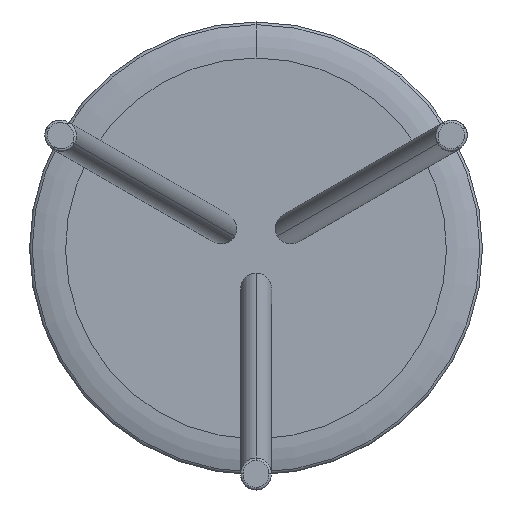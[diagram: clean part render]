
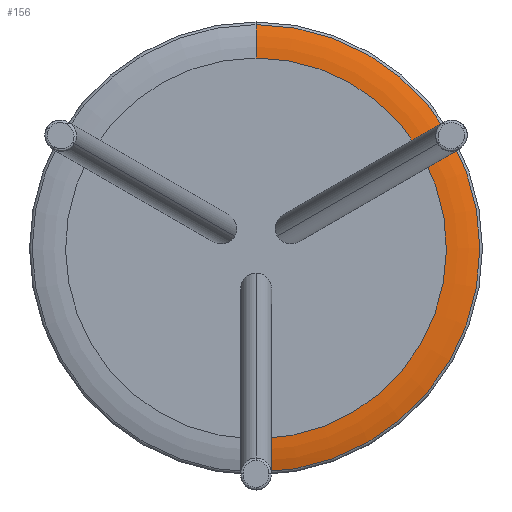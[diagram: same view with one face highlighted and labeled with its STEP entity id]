
A CAD part, front view. The second image highlights one B-rep face of the part: STEP entity #156.
In plain terms, the highlighted toroidal (fillet/blend) face has major radius 147.161 mm and minor radius 80 mm.
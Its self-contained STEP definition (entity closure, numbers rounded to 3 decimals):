
#87 = VERTEX_POINT ( 'NONE', #962 ) ;
#129 = DIRECTION ( 'NONE',  ( 0., 0., 1. ) ) ;
#150 = CARTESIAN_POINT ( 'NONE',  ( 0., 580., -147.161 ) ) ;
#156 = ADVANCED_FACE ( 'NONE', ( #924 ), #1211, .T. ) ;
#162 = CIRCLE ( 'NONE', #1394, 147.161 ) ;
#164 = CARTESIAN_POINT ( 'NONE',  ( 0., 500., 0. ) ) ;
#228 = DIRECTION ( 'NONE',  ( 0., -1., 0. ) ) ;
#268 = CIRCLE ( 'NONE', #2988, 147.161 ) ;
#283 = CARTESIAN_POINT ( 'NONE',  ( 0., 504.277, 172.968 ) ) ;
#366 = EDGE_CURVE ( 'NONE', #1023, #3025, #162, .T. ) ;
#601 = ORIENTED_EDGE ( 'NONE', *, *, #1172, .F. ) ;
#654 = DIRECTION ( 'NONE',  ( -1., 0., 0. ) ) ;
#776 = CARTESIAN_POINT ( 'NONE',  ( 126.05, 500., 75.946 ) ) ;
#795 = CARTESIAN_POINT ( 'NONE',  ( 0., 500., 0. ) ) ;
#837 = CIRCLE ( 'NONE', #1724, 147.161 ) ;
#924 = FACE_OUTER_BOUND ( 'NONE', #1065, .T. ) ;
#962 = CARTESIAN_POINT ( 'NONE',  ( 2.746, 500., -147.136 ) ) ;
#968 = DIRECTION ( 'NONE',  ( 0., 1., 0. ) ) ;
#1023 = VERTEX_POINT ( 'NONE', #776 ) ;
#1037 = DIRECTION ( 'NONE',  ( 0., 0., 1. ) ) ;
#1044 = ORIENTED_EDGE ( 'NONE', *, *, #2589, .T. ) ;
#1065 = EDGE_LOOP ( 'NONE', ( #2803, #1613, #1044, #601, #1997, #1716, #1885 ) ) ;
#1172 = EDGE_CURVE ( 'NONE', #2136, #2296, #3052, .T. ) ;
#1211 = TOROIDAL_SURFACE ( 'NONE', #2039, 147.161, 80. ) ;
#1394 = AXIS2_PLACEMENT_3D ( 'NONE', #3117, #2801, #3426 ) ;
#1403 = DIRECTION ( 'NONE',  ( 0., 1., 0. ) ) ;
#1488 = CARTESIAN_POINT ( 'NONE',  ( 0., 580., 147.161 ) ) ;
#1491 = AXIS2_PLACEMENT_3D ( 'NONE', #150, #2748, #2783 ) ;
#1498 = CARTESIAN_POINT ( 'NONE',  ( 0., 500., -147.161 ) ) ;
#1572 = EDGE_CURVE ( 'NONE', #3025, #87, #268, .T. ) ;
#1577 = CARTESIAN_POINT ( 'NONE',  ( 0., 504.277, 0. ) ) ;
#1613 = ORIENTED_EDGE ( 'NONE', *, *, #3264, .T. ) ;
#1716 = ORIENTED_EDGE ( 'NONE', *, *, #366, .T. ) ;
#1724 = AXIS2_PLACEMENT_3D ( 'NONE', #2935, #2655, #129 ) ;
#1785 = AXIS2_PLACEMENT_3D ( 'NONE', #164, #968, #3523 ) ;
#1885 = ORIENTED_EDGE ( 'NONE', *, *, #1572, .T. ) ;
#1891 = DIRECTION ( 'NONE',  ( 0., 1., 0. ) ) ;
#1929 = AXIS2_PLACEMENT_3D ( 'NONE', #1488, #654, #2827 ) ;
#1997 = ORIENTED_EDGE ( 'NONE', *, *, #3422, .T. ) ;
#2039 = AXIS2_PLACEMENT_3D ( 'NONE', #2146, #1891, #1037 ) ;
#2136 = VERTEX_POINT ( 'NONE', #3283 ) ;
#2146 = CARTESIAN_POINT ( 'NONE',  ( 0., 580., 0. ) ) ;
#2191 = DIRECTION ( 'NONE',  ( 0., 0., 1. ) ) ;
#2209 = EDGE_CURVE ( 'NONE', #87, #2410, #837, .T. ) ;
#2296 = VERTEX_POINT ( 'NONE', #283 ) ;
#2410 = VERTEX_POINT ( 'NONE', #1498 ) ;
#2448 = AXIS2_PLACEMENT_3D ( 'NONE', #1577, #228, #2191 ) ;
#2508 = CIRCLE ( 'NONE', #1785, 147.161 ) ;
#2533 = DIRECTION ( 'NONE',  ( 0., 0., 1. ) ) ;
#2589 = EDGE_CURVE ( 'NONE', #2617, #2296, #3498, .T. ) ;
#2617 = VERTEX_POINT ( 'NONE', #3274 ) ;
#2655 = DIRECTION ( 'NONE',  ( 0., 1., 0. ) ) ;
#2748 = DIRECTION ( 'NONE',  ( 1., 0., 0. ) ) ;
#2783 = DIRECTION ( 'NONE',  ( 0., 0., -1. ) ) ;
#2801 = DIRECTION ( 'NONE',  ( 0., 1., 0. ) ) ;
#2803 = ORIENTED_EDGE ( 'NONE', *, *, #2209, .T. ) ;
#2827 = DIRECTION ( 'NONE',  ( 0., 0., 1. ) ) ;
#2916 = CARTESIAN_POINT ( 'NONE',  ( 128.796, 500., 71.189 ) ) ;
#2935 = CARTESIAN_POINT ( 'NONE',  ( 0., 500., 0. ) ) ;
#2988 = AXIS2_PLACEMENT_3D ( 'NONE', #795, #1403, #2533 ) ;
#3025 = VERTEX_POINT ( 'NONE', #2916 ) ;
#3052 = CIRCLE ( 'NONE', #1929, 80. ) ;
#3117 = CARTESIAN_POINT ( 'NONE',  ( 0., 500., 0. ) ) ;
#3264 = EDGE_CURVE ( 'NONE', #2410, #2617, #3324, .T. ) ;
#3274 = CARTESIAN_POINT ( 'NONE',  ( 0., 504.277, -172.968 ) ) ;
#3283 = CARTESIAN_POINT ( 'NONE',  ( 0., 500., 147.161 ) ) ;
#3324 = CIRCLE ( 'NONE', #1491, 80. ) ;
#3422 = EDGE_CURVE ( 'NONE', #2136, #1023, #2508, .T. ) ;
#3426 = DIRECTION ( 'NONE',  ( 0., 0., 1. ) ) ;
#3498 = CIRCLE ( 'NONE', #2448, 172.968 ) ;
#3523 = DIRECTION ( 'NONE',  ( 0., 0., 1. ) ) ;
